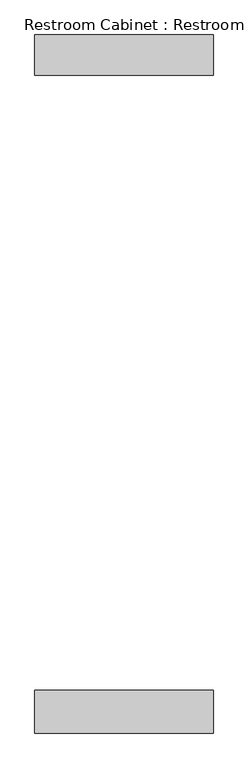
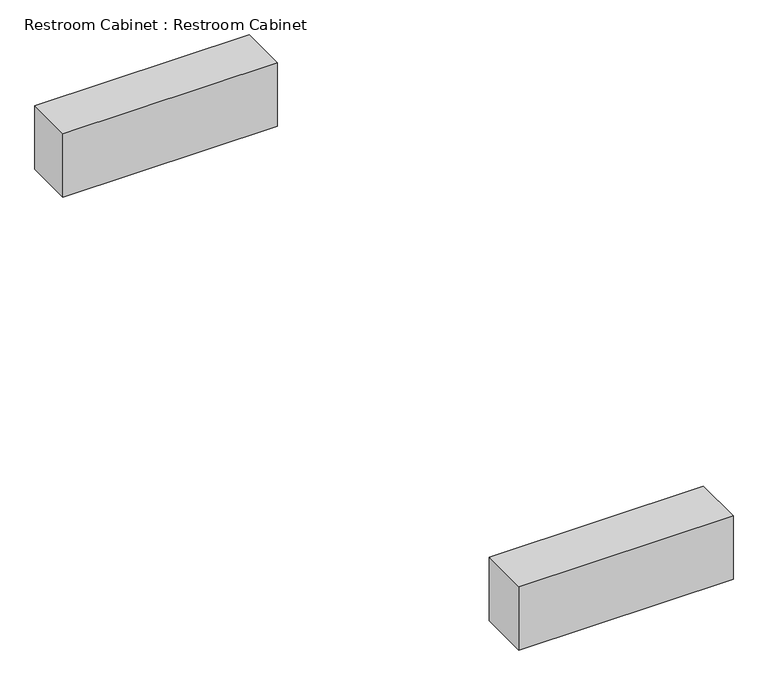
"""IFC4 building model written with IfcOpenShell, lengths in millimetres: furniture geometry, Restroom Cabinet : Restroom Cabinet."""

from ifc_helpers import new_model, si_unit, origin, origin_with_axes, place, context, project, spatial, polyline, outline, extrude, source, transform, mapped, element, save


def restroom_cabinet_restroom_cabinet_f470e7f9(model_context):
    return source(origin(), model_context, "Body", "SweptSolid", [
        extrude(outline(polyline([(10410.8157496, 4272.4099268), (10410.8157496, 3573.9099268), (7489.8157496, 3573.9099268), (7489.8157496, 4272.4099268), (10410.8157496, 4272.4099268)])), origin_with_axes(), (0.0, 0.0, 1.0), 914.4),
        extrude(outline(polyline([(7489.8157496, 14330.8099268), (7489.8157496, 14991.2099268), (10410.8157496, 14991.2099268), (10410.8157496, 14330.8099268), (7489.8157496, 14330.8099268)])), origin_with_axes(), (0.0, 0.0, 1.0), 914.4),
    ])


if __name__ == "__main__":
    model = new_model("IFC4")
    model_context = context("Model", 3, world=origin())
    ifc_project = project(units=[si_unit("LENGTHUNIT", "METRE", prefix="MILLI")], contexts=[model_context])
    site = spatial("IfcSite", under=ifc_project)
    building = spatial("IfcBuilding", under=site)
    placement = place(None, origin())
    restroom_cabinet_restroom_cabinet_shape = restroom_cabinet_restroom_cabinet_f470e7f9(model_context)
    element("IfcFurniture", 1, ObjectType="Restroom Cabinet : Restroom Cabinet", at=placement, inside=building, context=model_context, shape_type="MappedRepresentation", body=[
        mapped(restroom_cabinet_restroom_cabinet_shape, transform((0.0, 0.0, 0.0), x_axis=(1.0, 0.0, 0.0), y_axis=(0.0, 1.0, 0.0), z_axis=(0.0, 0.0, 1.0))),
    ])
    save(model, "model.ifc")
